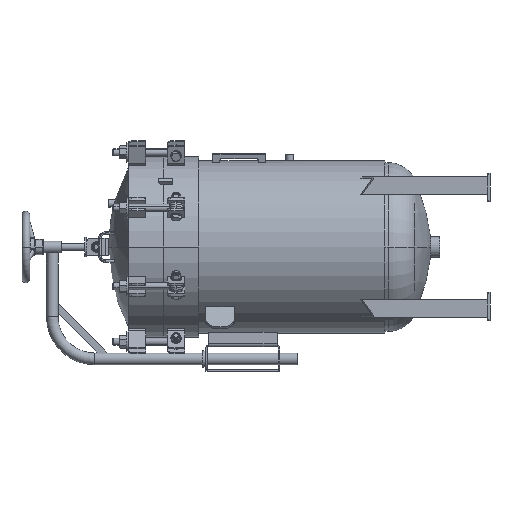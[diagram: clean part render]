
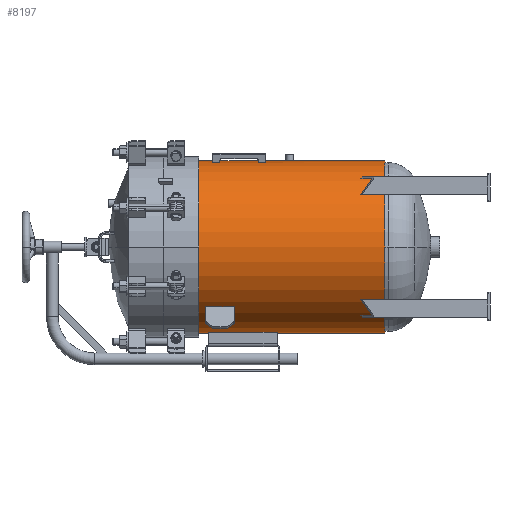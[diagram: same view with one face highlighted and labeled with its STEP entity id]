
A CAD part, left-side view. The second image highlights one B-rep face of the part: STEP entity #8197.
In plain terms, the highlighted cylindrical face has radius 311.15 mm (diameter 622.3 mm), a partial arc.
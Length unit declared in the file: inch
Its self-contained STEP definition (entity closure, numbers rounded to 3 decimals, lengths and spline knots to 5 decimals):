
#723 = DIRECTION ( 'NONE',  ( 0., -1., 0. ) ) ;
#2518 = VERTEX_POINT ( 'NONE', #28134 ) ;
#2550 = CARTESIAN_POINT ( 'NONE',  ( -2.44066, -2.59375, 12.0044 ) ) ;
#2749 = LINE ( 'NONE', #55563, #55832 ) ;
#4476 = CIRCLE ( 'NONE', #19708, 12.25 ) ;
#4564 = DIRECTION ( 'NONE',  ( 0., 0., 1. ) ) ;
#4622 = EDGE_CURVE ( 'NONE', #2518, #16705, #46808, .T. ) ;
#5220 = FACE_BOUND ( 'NONE', #11447, .T. ) ;
#5878 = VECTOR ( 'NONE', #46602, 39.37008 ) ;
#6398 = ORIENTED_EDGE ( 'NONE', *, *, #15727, .F. ) ;
#7046 = VERTEX_POINT ( 'NONE', #46598 ) ;
#7500 = DIRECTION ( 'NONE',  ( 0., 1., 0. ) ) ;
#8197 = ADVANCED_FACE ( 'Defeatured_2980', ( #50481, #46029, #5220 ), #41568, .T. ) ;
#8467 = LINE ( 'NONE', #2550, #56655 ) ;
#9035 = ORIENTED_EDGE ( 'NONE', *, *, #38519, .T. ) ;
#9349 = VERTEX_POINT ( 'NONE', #57600 ) ;
#10512 = VERTEX_POINT ( 'NONE', #31669 ) ;
#11447 = EDGE_LOOP ( 'NONE', ( #12421, #16687, #6398, #9035 ) ) ;
#11601 = AXIS2_PLACEMENT_3D ( 'NONE', #58704, #53647, #17911 ) ;
#12421 = ORIENTED_EDGE ( 'NONE', *, *, #44989, .T. ) ;
#12587 = AXIS2_PLACEMENT_3D ( 'NONE', #57596, #57300, #43913 ) ;
#13231 = CARTESIAN_POINT ( 'NONE',  ( 0., -5., 12.25 ) ) ;
#14144 = CARTESIAN_POINT ( 'NONE',  ( 0., -8., 0. ) ) ;
#14597 = EDGE_LOOP ( 'NONE', ( #51223, #23462, #35603, #30528 ) ) ;
#15067 = CARTESIAN_POINT ( 'NONE',  ( 0., -31.40625, 0. ) ) ;
#15290 = ORIENTED_EDGE ( 'NONE', *, *, #29148, .T. ) ;
#15727 = EDGE_CURVE ( 'NONE', #36053, #10512, #56380, .T. ) ;
#16320 = CARTESIAN_POINT ( 'NONE',  ( -2.44066, -7., 12.0044 ) ) ;
#16687 = ORIENTED_EDGE ( 'NONE', *, *, #32444, .T. ) ;
#16705 = VERTEX_POINT ( 'NONE', #13231 ) ;
#17115 = CARTESIAN_POINT ( 'NONE',  ( -2.37926, -8., 12.01672 ) ) ;
#17311 = ORIENTED_EDGE ( 'NONE', *, *, #4622, .F. ) ;
#17494 = VERTEX_POINT ( 'NONE', #30472 ) ;
#17911 = DIRECTION ( 'NONE',  ( 0., 0., -1. ) ) ;
#17974 = CARTESIAN_POINT ( 'NONE',  ( -2.44066, -8., 12.0044 ) ) ;
#18290 = VECTOR ( 'NONE', #26318, 39.37008 ) ;
#19708 = AXIS2_PLACEMENT_3D ( 'NONE', #15067, #25686, #37443 ) ;
#21300 = CARTESIAN_POINT ( 'NONE',  ( 0., -5., 0. ) ) ;
#21845 = EDGE_LOOP ( 'NONE', ( #57908, #17311, #15290, #58297 ) ) ;
#22936 = CARTESIAN_POINT ( 'NONE',  ( 0., -7., 0. ) ) ;
#23462 = ORIENTED_EDGE ( 'NONE', *, *, #47508, .T. ) ;
#24274 = LINE ( 'NONE', #38586, #5878 ) ;
#24515 = CARTESIAN_POINT ( 'NONE',  ( -2.37926, -14.4375, 12.01672 ) ) ;
#25686 = DIRECTION ( 'NONE',  ( 0., 1., 0. ) ) ;
#26170 = CARTESIAN_POINT ( 'NONE',  ( -2.37926, -14.4375, 12.01672 ) ) ;
#26318 = DIRECTION ( 'NONE',  ( 0., 1., 0. ) ) ;
#26923 = DIRECTION ( 'NONE',  ( 0., 1., 0. ) ) ;
#27250 = AXIS2_PLACEMENT_3D ( 'NONE', #22936, #41120, #36075 ) ;
#27257 = DIRECTION ( 'NONE',  ( -1., 0., 0. ) ) ;
#27841 = DIRECTION ( 'NONE',  ( 0., 0., -1. ) ) ;
#28134 = CARTESIAN_POINT ( 'NONE',  ( 0., -5., -12.25 ) ) ;
#28159 = EDGE_CURVE ( 'NONE', #32941, #32015, #53698, .T. ) ;
#29148 = EDGE_CURVE ( 'NONE', #2518, #17494, #24274, .T. ) ;
#30472 = CARTESIAN_POINT ( 'NONE',  ( 0., -31.40625, -12.25 ) ) ;
#30528 = ORIENTED_EDGE ( 'NONE', *, *, #51024, .T. ) ;
#30580 = CARTESIAN_POINT ( 'NONE',  ( -2.37926, -13.4375, 12.01672 ) ) ;
#31669 = CARTESIAN_POINT ( 'NONE',  ( -2.37926, -7., 12.01672 ) ) ;
#32015 = VERTEX_POINT ( 'NONE', #30580 ) ;
#32444 = EDGE_CURVE ( 'NONE', #57972, #10512, #46251, .T. ) ;
#32941 = VERTEX_POINT ( 'NONE', #26170 ) ;
#33094 = CIRCLE ( 'NONE', #34078, 12.25 ) ;
#33260 = DIRECTION ( 'NONE',  ( 0., -1., 0. ) ) ;
#34078 = AXIS2_PLACEMENT_3D ( 'NONE', #14144, #723, #27841 ) ;
#35603 = ORIENTED_EDGE ( 'NONE', *, *, #36102, .T. ) ;
#36053 = VERTEX_POINT ( 'NONE', #17115 ) ;
#36075 = DIRECTION ( 'NONE',  ( 0., 0., 1. ) ) ;
#36102 = EDGE_CURVE ( 'NONE', #7046, #9349, #8467, .T. ) ;
#36841 = VERTEX_POINT ( 'NONE', #17974 ) ;
#37443 = DIRECTION ( 'NONE',  ( 1., 0., 0. ) ) ;
#38519 = EDGE_CURVE ( 'NONE', #36053, #36841, #33094, .T. ) ;
#38586 = CARTESIAN_POINT ( 'NONE',  ( 0., -2.59375, -12.25 ) ) ;
#38821 = DIRECTION ( 'NONE',  ( 0., 1., 0. ) ) ;
#38918 = DIRECTION ( 'NONE',  ( 0., 1., 0. ) ) ;
#40016 = CIRCLE ( 'NONE', #11601, 12.25 ) ;
#41120 = DIRECTION ( 'NONE',  ( 0., 1., 0. ) ) ;
#41568 = CYLINDRICAL_SURFACE ( 'NONE', #12587, 12.25 ) ;
#43040 = AXIS2_PLACEMENT_3D ( 'NONE', #21300, #53468, #27257 ) ;
#43913 = DIRECTION ( 'NONE',  ( 0., 0., -1. ) ) ;
#44989 = EDGE_CURVE ( 'NONE', #36841, #57972, #2749, .T. ) ;
#45005 = EDGE_CURVE ( 'NONE', #17494, #47345, #4476, .T. ) ;
#45055 = EDGE_CURVE ( 'NONE', #16705, #47345, #46929, .T. ) ;
#46029 = FACE_BOUND ( 'NONE', #14597, .T. ) ;
#46251 = CIRCLE ( 'NONE', #27250, 12.25 ) ;
#46598 = CARTESIAN_POINT ( 'NONE',  ( -2.44066, -14.4375, 12.0044 ) ) ;
#46602 = DIRECTION ( 'NONE',  ( 0., -1., 0. ) ) ;
#46808 = CIRCLE ( 'NONE', #43040, 12.25 ) ;
#46929 = LINE ( 'NONE', #57255, #56820 ) ;
#47345 = VERTEX_POINT ( 'NONE', #58806 ) ;
#47508 = EDGE_CURVE ( 'NONE', #32941, #7046, #40016, .T. ) ;
#49537 = CARTESIAN_POINT ( 'NONE',  ( 0., -13.4375, 0. ) ) ;
#49810 = AXIS2_PLACEMENT_3D ( 'NONE', #49537, #26923, #4564 ) ;
#50481 = FACE_OUTER_BOUND ( 'NONE', #21845, .T. ) ;
#51024 = EDGE_CURVE ( 'NONE', #9349, #32015, #55505, .T. ) ;
#51223 = ORIENTED_EDGE ( 'NONE', *, *, #28159, .F. ) ;
#53312 = VECTOR ( 'NONE', #38821, 39.37008 ) ;
#53468 = DIRECTION ( 'NONE',  ( 0., 1., 0. ) ) ;
#53647 = DIRECTION ( 'NONE',  ( 0., -1., 0. ) ) ;
#53698 = LINE ( 'NONE', #57584, #18290 ) ;
#55505 = CIRCLE ( 'NONE', #49810, 12.25 ) ;
#55563 = CARTESIAN_POINT ( 'NONE',  ( -2.44066, -2.59375, 12.0044 ) ) ;
#55832 = VECTOR ( 'NONE', #7500, 39.37008 ) ;
#56380 = LINE ( 'NONE', #24515, #53312 ) ;
#56655 = VECTOR ( 'NONE', #38918, 39.37008 ) ;
#56820 = VECTOR ( 'NONE', #33260, 39.37008 ) ;
#57255 = CARTESIAN_POINT ( 'NONE',  ( 0., -2.59375, 12.25 ) ) ;
#57300 = DIRECTION ( 'NONE',  ( 0., -1., 0. ) ) ;
#57584 = CARTESIAN_POINT ( 'NONE',  ( -2.37926, -14.4375, 12.01672 ) ) ;
#57596 = CARTESIAN_POINT ( 'NONE',  ( 0., -2.59375, 0. ) ) ;
#57600 = CARTESIAN_POINT ( 'NONE',  ( -2.44066, -13.4375, 12.0044 ) ) ;
#57908 = ORIENTED_EDGE ( 'NONE', *, *, #45055, .F. ) ;
#57972 = VERTEX_POINT ( 'NONE', #16320 ) ;
#58297 = ORIENTED_EDGE ( 'NONE', *, *, #45005, .T. ) ;
#58704 = CARTESIAN_POINT ( 'NONE',  ( 0., -14.4375, 0. ) ) ;
#58806 = CARTESIAN_POINT ( 'NONE',  ( 0., -31.40625, 12.25 ) ) ;
